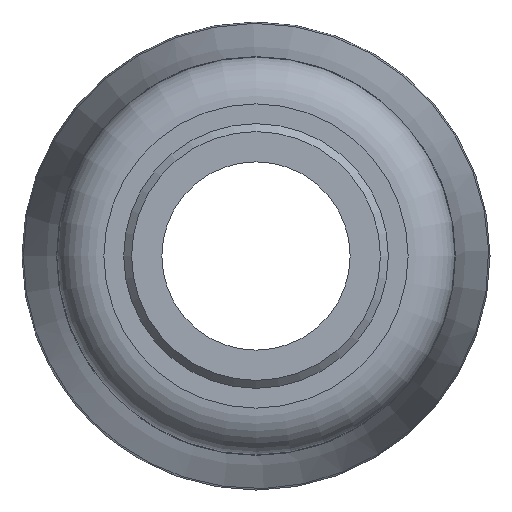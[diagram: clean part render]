
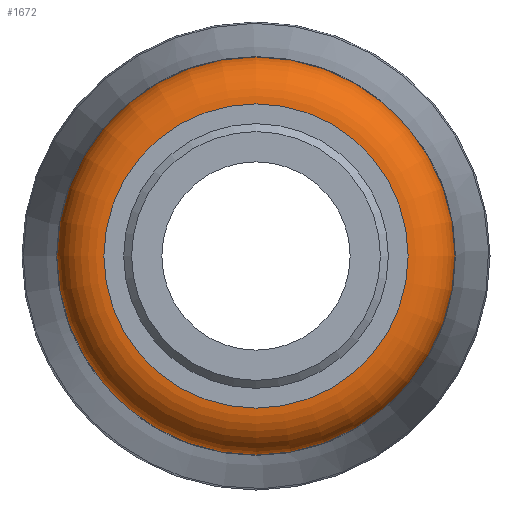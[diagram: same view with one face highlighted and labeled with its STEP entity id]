
A CAD part, left-side view. The second image highlights one B-rep face of the part: STEP entity #1672.
In plain terms, the highlighted toroidal (fillet/blend) face has major radius 22.75 mm and minor radius 7 mm.
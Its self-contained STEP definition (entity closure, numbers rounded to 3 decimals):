
#16=TOROIDAL_SURFACE('',#1828,22.75,7.);
#353=FACE_BOUND('',#498,.T.);
#388=FACE_OUTER_BOUND('',#497,.T.);
#497=EDGE_LOOP('',(#1219));
#498=EDGE_LOOP('',(#1220));
#613=CIRCLE('',#1807,29.75);
#626=CIRCLE('',#1829,22.75);
#725=VERTEX_POINT('',#2853);
#735=VERTEX_POINT('',#2911);
#896=EDGE_CURVE('',#725,#725,#613,.T.);
#912=EDGE_CURVE('',#735,#735,#626,.T.);
#1219=ORIENTED_EDGE('',*,*,#912,.T.);
#1220=ORIENTED_EDGE('',*,*,#896,.T.);
#1672=ADVANCED_FACE('',(#388,#353),#16,.T.);
#1807=AXIS2_PLACEMENT_3D('',#2854,#2076,#2077);
#1828=AXIS2_PLACEMENT_3D('',#2910,#2119,#2120);
#1829=AXIS2_PLACEMENT_3D('',#2912,#2121,#2122);
#2076=DIRECTION('center_axis',(-1.,0.,0.));
#2077=DIRECTION('ref_axis',(0.,-1.,0.));
#2119=DIRECTION('center_axis',(1.,0.,0.));
#2120=DIRECTION('ref_axis',(0.,0.,-1.));
#2121=DIRECTION('center_axis',(1.,0.,0.));
#2122=DIRECTION('ref_axis',(0.,-1.,0.));
#2853=CARTESIAN_POINT('',(26.,29.75,0.));
#2854=CARTESIAN_POINT('Origin',(26.,0.,0.));
#2910=CARTESIAN_POINT('Origin',(26.,0.,0.));
#2911=CARTESIAN_POINT('',(19.,22.75,0.));
#2912=CARTESIAN_POINT('Origin',(19.,0.,0.));
